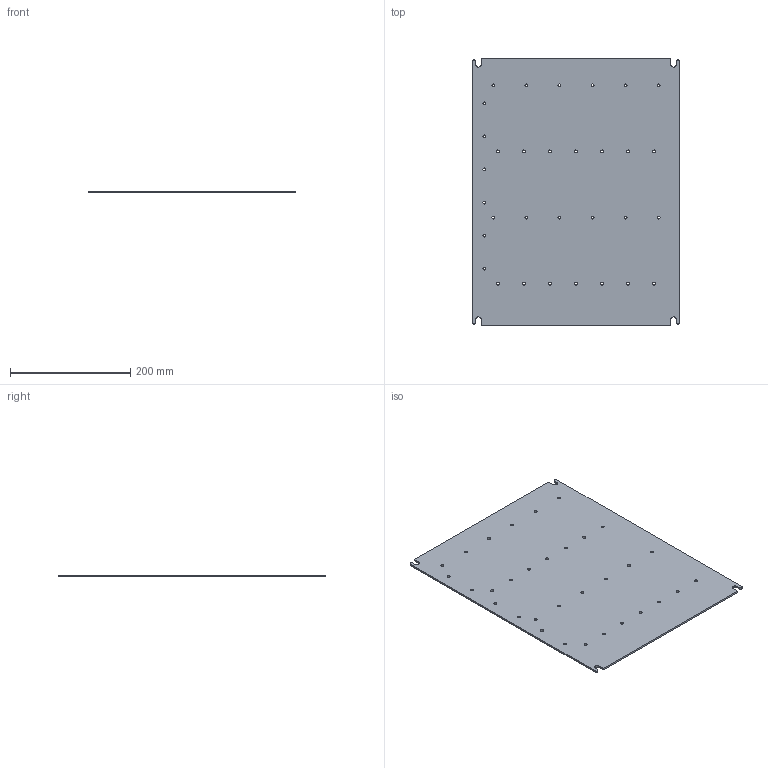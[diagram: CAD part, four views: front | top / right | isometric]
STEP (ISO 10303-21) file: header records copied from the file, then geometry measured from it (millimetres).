
FILE_DESCRIPTION(/* description */ (''),/* implementation_level */ '2;1');
FILE_NAME(/* name */ 'CWC-EL0004-P99_Mounting Plate.stp',/* time_stamp */ '2026-03-27T10:37:06+01:00',/* author */ (''),/* organization */ (''),/* preprocessor_version */ 'ST-DEVELOPER v18.1',/* originating_system */ 'SIEMENS PLM Software NX 1988',/* authorisation */ '');
FILE_SCHEMA (('AUTOMOTIVE_DESIGN { 1 0 10303 214 3 1 1 1 }'));
Length unit declared in the file: millimetre
Products named in the file (1): anto3904342Bjrmb
Bounding box: 345 x 445 x 3 mm (x, y, z)
Volume: 457040.9 mm3; surface area: 311161.2 mm2
Topology: 1 solids, 1 shells, 54 faces, 156 edges, 104 vertices
Faces by surface type: cylinder 40, plane 14
Full cylindrical faces by diameter (mm): 5 x32
Entity records: 1820 total; most frequent: DIRECTION 314, CARTESIAN_POINT 283, ORIENTED_EDGE 248, EDGE_LOOP 150, AXIS2_PLACEMENT_3D 135, FACE_BOUND 130, EDGE_CURVE 124, VERTEX_POINT 104
